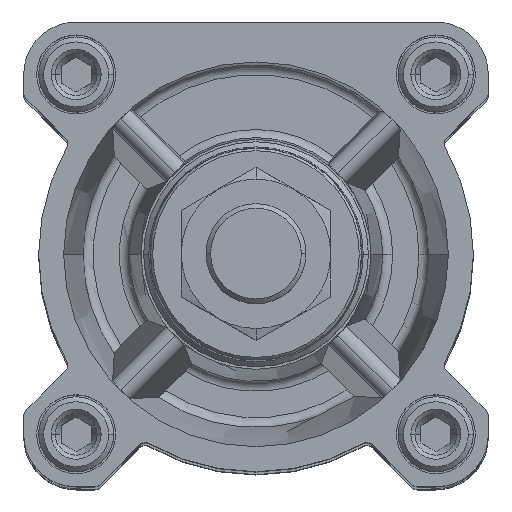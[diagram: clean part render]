
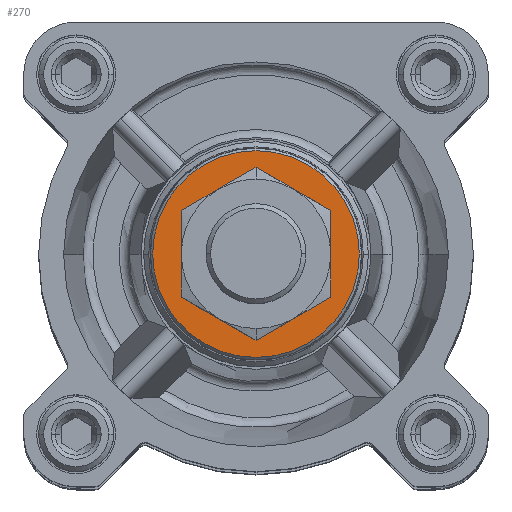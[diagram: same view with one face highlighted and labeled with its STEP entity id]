
A CAD part, top view. The second image highlights one B-rep face of the part: STEP entity #270.
In plain terms, the highlighted planar face has unit normal (0, 0, 1).
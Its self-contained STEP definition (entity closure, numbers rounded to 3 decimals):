
#98 = CIRCLE ( 'NONE', #1008, 12.5 ) ;
#270 = ADVANCED_FACE ( 'NONE', ( #20453, #10022 ), #18265, .F. ) ;
#533 = CARTESIAN_POINT ( 'NONE',  ( -12.5, 0., 24.2 ) ) ;
#1008 = AXIS2_PLACEMENT_3D ( 'NONE', #14277, #22525, #24026 ) ;
#1221 = CIRCLE ( 'NONE', #19704, 12.5 ) ;
#1505 = CARTESIAN_POINT ( 'NONE',  ( 0., 0., 24.2 ) ) ;
#1950 = ORIENTED_EDGE ( 'NONE', *, *, #3931, .T. ) ;
#2196 = CARTESIAN_POINT ( 'NONE',  ( 12.5, 0., 24.2 ) ) ;
#3321 = VERTEX_POINT ( 'NONE', #533 ) ;
#3931 = EDGE_CURVE ( 'NONE', #18823, #3321, #1221, .T. ) ;
#4157 = ORIENTED_EDGE ( 'NONE', *, *, #12702, .F. ) ;
#4186 = CIRCLE ( 'NONE', #13658, 20.686 ) ;
#4562 = CARTESIAN_POINT ( 'NONE',  ( 0., 0., 24.2 ) ) ;
#6446 = CARTESIAN_POINT ( 'NONE',  ( 0., 0., 24.2 ) ) ;
#6578 = DIRECTION ( 'NONE',  ( 0., 0., -1. ) ) ;
#7475 = VERTEX_POINT ( 'NONE', #20499 ) ;
#8901 = DIRECTION ( 'NONE',  ( 0., -1., 0. ) ) ;
#9475 = VERTEX_POINT ( 'NONE', #13402 ) ;
#10022 = FACE_BOUND ( 'NONE', #13549, .T. ) ;
#10170 = CIRCLE ( 'NONE', #13627, 20.686 ) ;
#10217 = DIRECTION ( 'NONE',  ( -1., 0., 0. ) ) ;
#10621 = DIRECTION ( 'NONE',  ( -1., 0., 0. ) ) ;
#12514 = EDGE_LOOP ( 'NONE', ( #22777, #4157 ) ) ;
#12702 = EDGE_CURVE ( 'NONE', #7475, #9475, #4186, .T. ) ;
#13242 = DIRECTION ( 'NONE',  ( 0., 0., -1. ) ) ;
#13402 = CARTESIAN_POINT ( 'NONE',  ( -20.686, 0., 24.2 ) ) ;
#13549 = EDGE_LOOP ( 'NONE', ( #16117, #1950 ) ) ;
#13627 = AXIS2_PLACEMENT_3D ( 'NONE', #4562, #6578, #10621 ) ;
#13658 = AXIS2_PLACEMENT_3D ( 'NONE', #1505, #17930, #26163 ) ;
#14277 = CARTESIAN_POINT ( 'NONE',  ( 0., 0., 24.2 ) ) ;
#16117 = ORIENTED_EDGE ( 'NONE', *, *, #21027, .T. ) ;
#16217 = AXIS2_PLACEMENT_3D ( 'NONE', #23000, #13242, #8901 ) ;
#17930 = DIRECTION ( 'NONE',  ( 0., 0., -1. ) ) ;
#18265 = PLANE ( 'NONE',  #16217 ) ;
#18313 = EDGE_CURVE ( 'NONE', #9475, #7475, #10170, .T. ) ;
#18823 = VERTEX_POINT ( 'NONE', #2196 ) ;
#19704 = AXIS2_PLACEMENT_3D ( 'NONE', #6446, #22663, #10217 ) ;
#20453 = FACE_OUTER_BOUND ( 'NONE', #12514, .T. ) ;
#20499 = CARTESIAN_POINT ( 'NONE',  ( 20.686, 0., 24.2 ) ) ;
#21027 = EDGE_CURVE ( 'NONE', #3321, #18823, #98, .T. ) ;
#22525 = DIRECTION ( 'NONE',  ( 0., 0., -1. ) ) ;
#22663 = DIRECTION ( 'NONE',  ( 0., 0., -1. ) ) ;
#22777 = ORIENTED_EDGE ( 'NONE', *, *, #18313, .F. ) ;
#23000 = CARTESIAN_POINT ( 'NONE',  ( 0., 0., 24.2 ) ) ;
#24026 = DIRECTION ( 'NONE',  ( -1., 0., 0. ) ) ;
#26163 = DIRECTION ( 'NONE',  ( -1., 0., 0. ) ) ;
